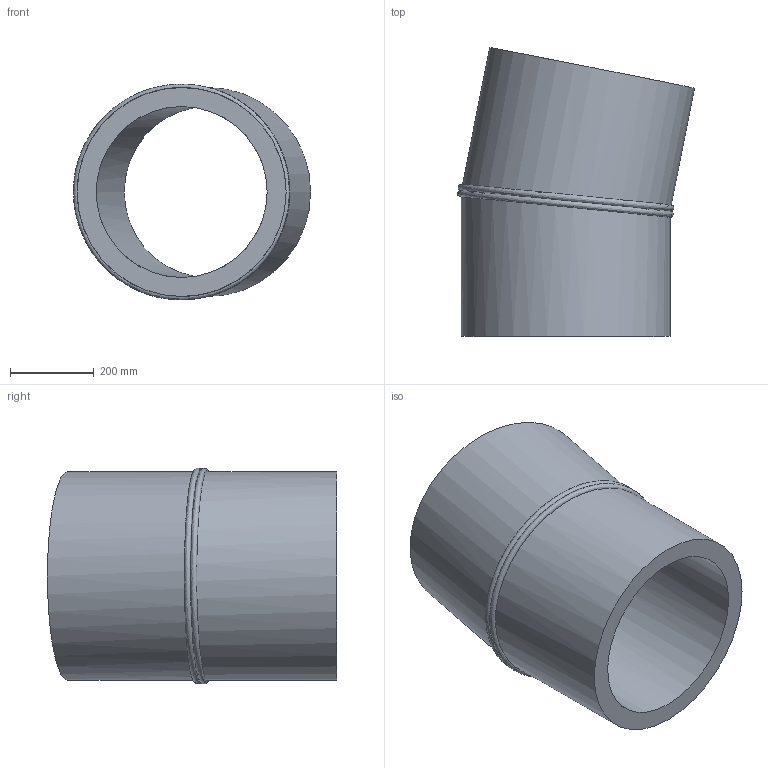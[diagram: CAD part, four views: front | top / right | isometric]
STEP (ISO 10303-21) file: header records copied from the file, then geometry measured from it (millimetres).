
FILE_DESCRIPTION(/* description */ ('Unknown'),/* implementation_level */ '2;1');
FILE_NAME(/* name */ 'Curva 11.25° a settore DE500 SDR11',/* time_stamp */ '2022-07-22T14:48:47+02:00',/* author */ ('Unknown'),/* organization */ ('Unknown'),/* preprocessor_version */ 'ST-DEVELOPER v18.102',/* originating_system */ 'Solid Edge',/* authorisation */ 'Unknown');
FILE_SCHEMA (('AUTOMOTIVE_DESIGN {1 0 10303 214 3 1 1}'));
Length unit declared in the file: millimetre
Products named in the file (2): Curva 11.25° a settore DE500 SDR11; Tubo x Gomito 11.25° DE500 SDR11
Assembly tree (2 placements, depth 2):
  Curva 11.25° a settore DE500 SDR11
    Tubo x Gomito 11.25° DE500 SDR11  x2
Bounding box: 567.48 x 691.78 x 516.45 mm (x, y, z)
Volume: 42413275.8 mm3; surface area: 2148015.6 mm2
Topology: 2 solids, 2 shells, 10 faces, 20 edges, 14 vertices
Faces by surface type: cylinder 4, plane 4, bspline 2
Full cylindrical faces by diameter (mm): 409.2 x2, 500 x2
Entity records: 1223 total; most frequent: CARTESIAN_POINT 1086, DIRECTION 20, ORIENTED_EDGE 10, EDGE_LOOP 10, FACE_BOUND 10, AXIS2_PLACEMENT_3D 10, EDGE_CURVE 5, VERTEX_POINT 5
